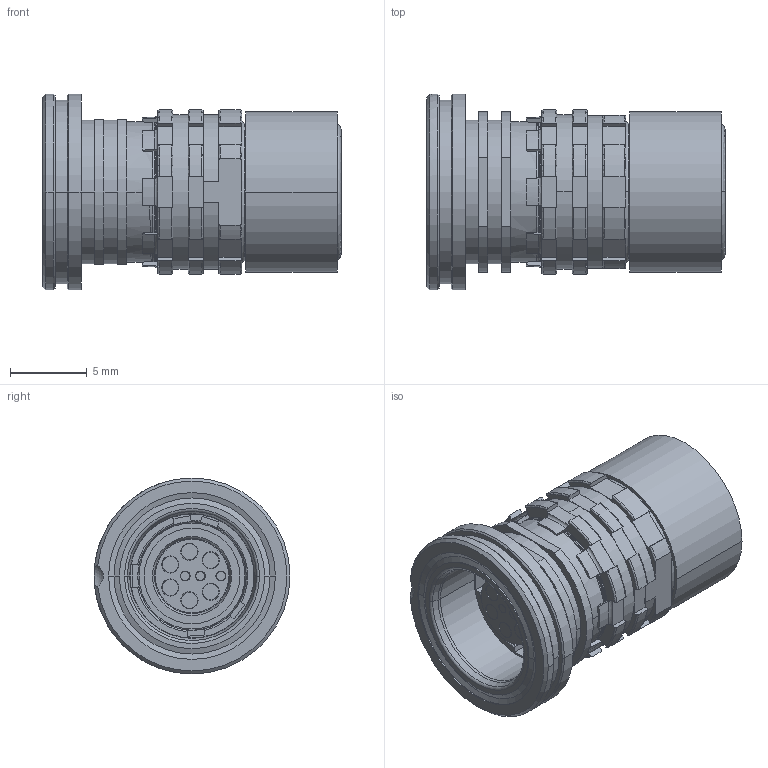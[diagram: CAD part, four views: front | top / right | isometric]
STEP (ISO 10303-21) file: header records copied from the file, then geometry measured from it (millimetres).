
FILE_DESCRIPTION((''),'2;1');
FILE_NAME('K10WAM-P09WMM0-0000_EXTERN','2020-12-23T10:50:26',('FHeitzinger'),(''),'CREO PARAMETRIC BY PTC INC, 2018300','CREO PARAMETRIC BY PTC INC, 2018300','');
FILE_SCHEMA(('AP242_MANAGED_MODEL_BASED_3D_ENGINEERING_MIM_LF { 1 0 10303 442 1 1 4 }'));
Length unit declared in the file: millimetre
Products named in the file (1): K10WAM-P09WMM0-0000_EXTERN
Bounding box: 19.5 x 12.8 x 12.8 mm (x, y, z)
Volume: 999.9 mm3; surface area: 2859.7 mm2
Topology: 1 solids, 1 shells, 810 faces, 2335 edges, 1538 vertices
Faces by surface type: plane 277, cylinder 271, cone 127, torus 125, bspline 9, sphere 1
Entity records: 38448 total; most frequent: CARTESIAN_POINT 11187, ORIENTED_EDGE 4634, DIRECTION 4564, EDGE_CURVE 2317, AXIS2_PLACEMENT_3D 1820, VERTEX_POINT 1538, CIRCLE 1019, VECTOR 924
